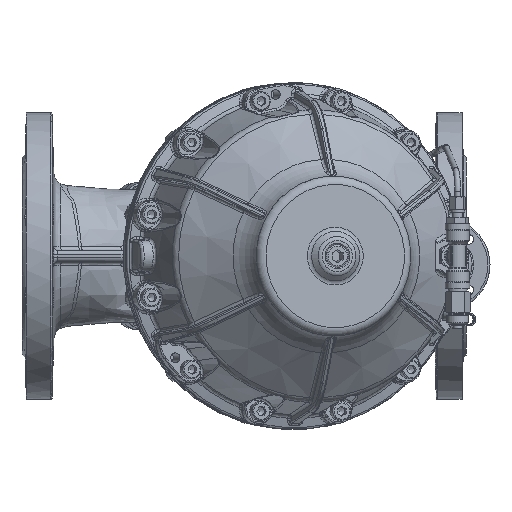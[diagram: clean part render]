
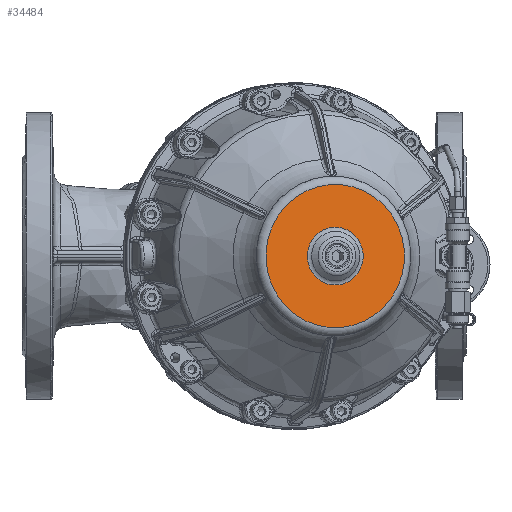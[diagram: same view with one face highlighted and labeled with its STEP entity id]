
A CAD part, front view. The second image highlights one B-rep face of the part: STEP entity #34484.
In plain terms, the highlighted planar face has unit normal (0.259, -0.966, 0).
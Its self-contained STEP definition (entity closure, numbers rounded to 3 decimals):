
#2055 = VERTEX_POINT ( 'NONE', #121600 ) ;
#9789 = AXIS2_PLACEMENT_3D ( 'NONE', #113817, #9859, #90951 ) ;
#9859 = DIRECTION ( 'NONE',  ( -0.259, 0.966, 0. ) ) ;
#11354 = DIRECTION ( 'NONE',  ( -0.25, -0.067, -0.966 ) ) ;
#17391 = FACE_OUTER_BOUND ( 'NONE', #131187, .T. ) ;
#28486 = ORIENTED_EDGE ( 'NONE', *, *, #83467, .T. ) ;
#34484 = ADVANCED_FACE ( 'NONE', ( #48253, #17391 ), #137125, .F. ) ;
#40806 = EDGE_LOOP ( 'NONE', ( #28486 ) ) ;
#48253 = FACE_BOUND ( 'NONE', #40806, .T. ) ;
#51711 = CARTESIAN_POINT ( 'NONE',  ( 71.512, -266.885, 0. ) ) ;
#53311 = ORIENTED_EDGE ( 'NONE', *, *, #56836, .F. ) ;
#56836 = EDGE_CURVE ( 'NONE', #2055, #2055, #71527, .T. ) ;
#63419 = DIRECTION ( 'NONE',  ( -0.25, -0.067, -0.966 ) ) ;
#65819 = CARTESIAN_POINT ( 'NONE',  ( 66.472, -268.236, -19.47 ) ) ;
#71527 = CIRCLE ( 'NONE', #135319, 50. ) ;
#80810 = DIRECTION ( 'NONE',  ( -0.259, 0.966, 0. ) ) ;
#83467 = EDGE_CURVE ( 'NONE', #112643, #112643, #107423, .T. ) ;
#90951 = DIRECTION ( 'NONE',  ( -0.25, -0.067, -0.966 ) ) ;
#107423 = CIRCLE ( 'NONE', #149009, 20.157 ) ;
#112643 = VERTEX_POINT ( 'NONE', #65819 ) ;
#113817 = CARTESIAN_POINT ( 'NONE',  ( 118.162, -254.385, -12.941 ) ) ;
#121600 = CARTESIAN_POINT ( 'NONE',  ( 59.012, -270.235, -48.296 ) ) ;
#131187 = EDGE_LOOP ( 'NONE', ( #53311 ) ) ;
#132857 = DIRECTION ( 'NONE',  ( -0.259, 0.966, 0. ) ) ;
#135319 = AXIS2_PLACEMENT_3D ( 'NONE', #150248, #80810, #11354 ) ;
#137125 = PLANE ( 'NONE',  #9789 ) ;
#149009 = AXIS2_PLACEMENT_3D ( 'NONE', #51711, #132857, #63419 ) ;
#150248 = CARTESIAN_POINT ( 'NONE',  ( 71.512, -266.885, 0. ) ) ;
